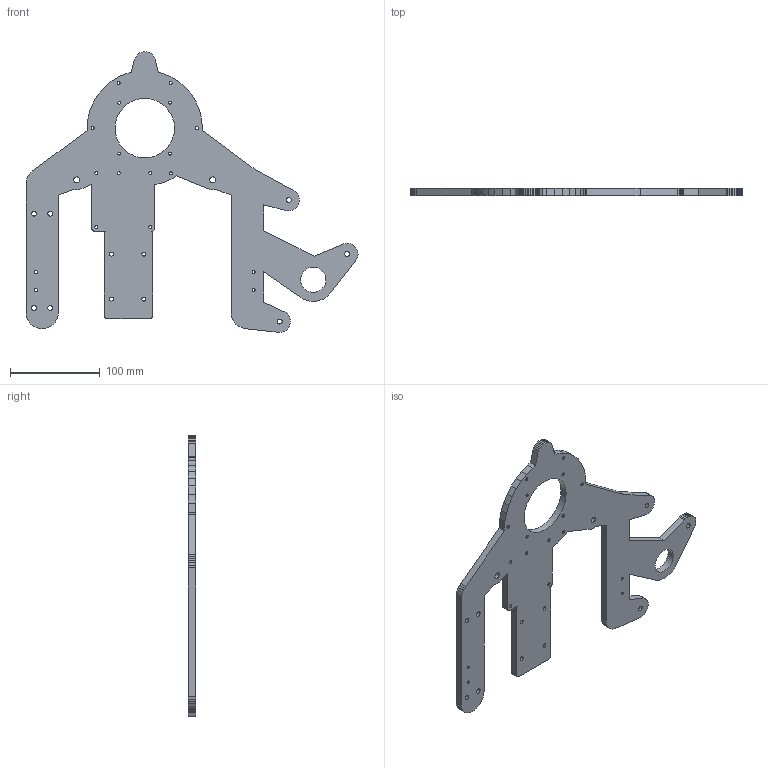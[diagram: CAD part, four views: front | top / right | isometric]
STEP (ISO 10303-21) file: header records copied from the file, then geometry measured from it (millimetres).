
FILE_DESCRIPTION(('Open CASCADE Model'),'2;1');
FILE_NAME('Open CASCADE Shape Model','2026-10-18T22:58:25',('Author'),( 'Open CASCADE'),'Open CASCADE STEP processor 7.9','Open CASCADE 7.9' ,'Unknown');
FILE_SCHEMA(('AUTOMOTIVE_DESIGN { 1 0 10303 214 1 1 1 1 }'));
Length unit declared in the file: millimetre
Products named in the file (1): Open CASCADE STEP translator 7.9 25
Bounding box: 369 x 8 x 312 mm (x, y, z)
Volume: 337687.6 mm3; surface area: 105344.7 mm2
Topology: 1 solids, 1 shells, 278 faces, 810 edges, 534 vertices
Faces by surface type: plane 227, cylinder 51
Full cylindrical faces by diameter (mm): 3.3 x36, 4.5 x4, 5.5 x7, 6.6 x2, 28 x1, 66 x1
Entity records: 19802 total; most frequent: CARTESIAN_POINT 3509, DIRECTION 2996, LINE 2242, VECTOR 2242, ORIENTED_EDGE 1620, PCURVE 1620, DEFINITIONAL_REPRESENTATION 1620, EDGE_CURVE 810
